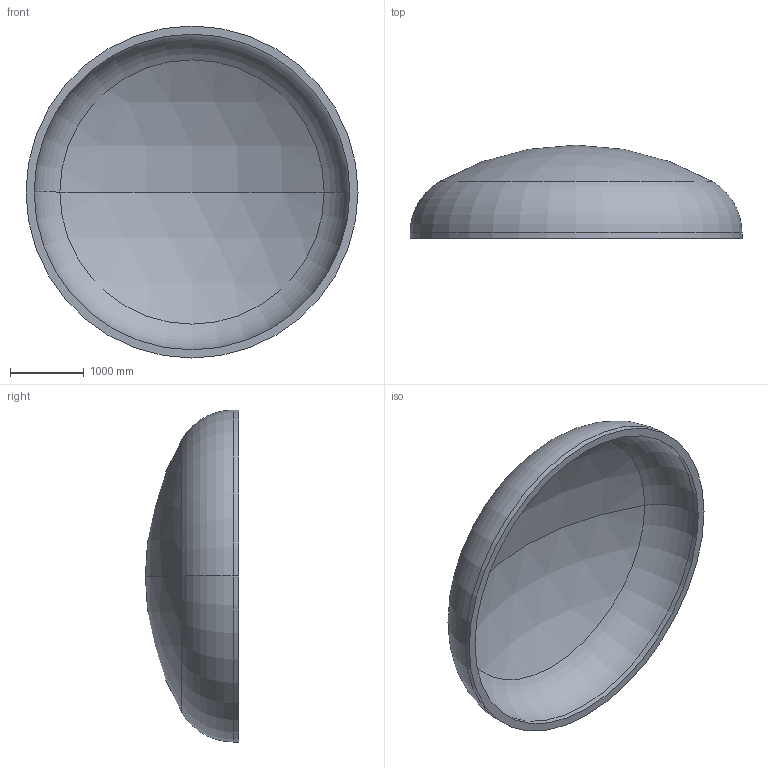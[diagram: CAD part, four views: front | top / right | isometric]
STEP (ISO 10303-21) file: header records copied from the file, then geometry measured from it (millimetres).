
FILE_DESCRIPTION (( 'STEP AP203' ), '1' );
FILE_NAME ('DIN 28013 Korbbogenform_-_Boden DIN 28013 - 4500 x 75 - I - s=110.step', '2016-07-01T23:55:12', ( '' ), ( '' ), 'SwSTEP 2.0', 'SolidWorks 2013', '' );
FILE_SCHEMA (( 'CONFIG_CONTROL_DESIGN' ));
Length unit declared in the file: millimetre
Products named in the file (1): DIN 28013 Korbbogenform_-_Boden DIN 28013 - 4500 x 75 - I - s=110
Bounding box: 4500 x 1264.88 x 4500 mm (x, y, z)
Volume: 2461643215.2 mm3; surface area: 46299550.8 mm2
Topology: 1 solids, 1 shells, 13 faces, 24 edges, 14 vertices
Faces by surface type: torus 4, cylinder 4, sphere 4, plane 1
Entity records: 407 total; most frequent: DIRECTION 72, CARTESIAN_POINT 52, ORIENTED_EDGE 48, AXIS2_PLACEMENT_3D 34, EDGE_CURVE 24, CIRCLE 20, EDGE_LOOP 14, VERTEX_POINT 14
